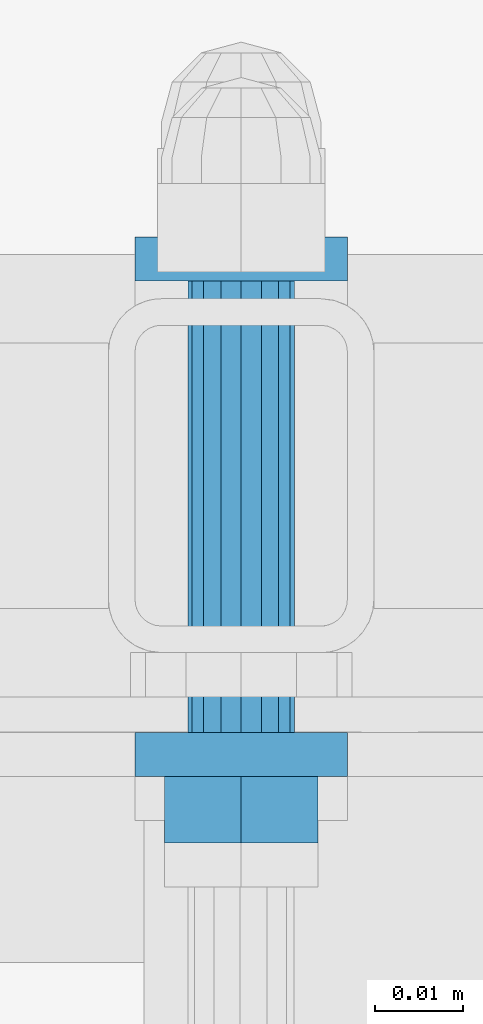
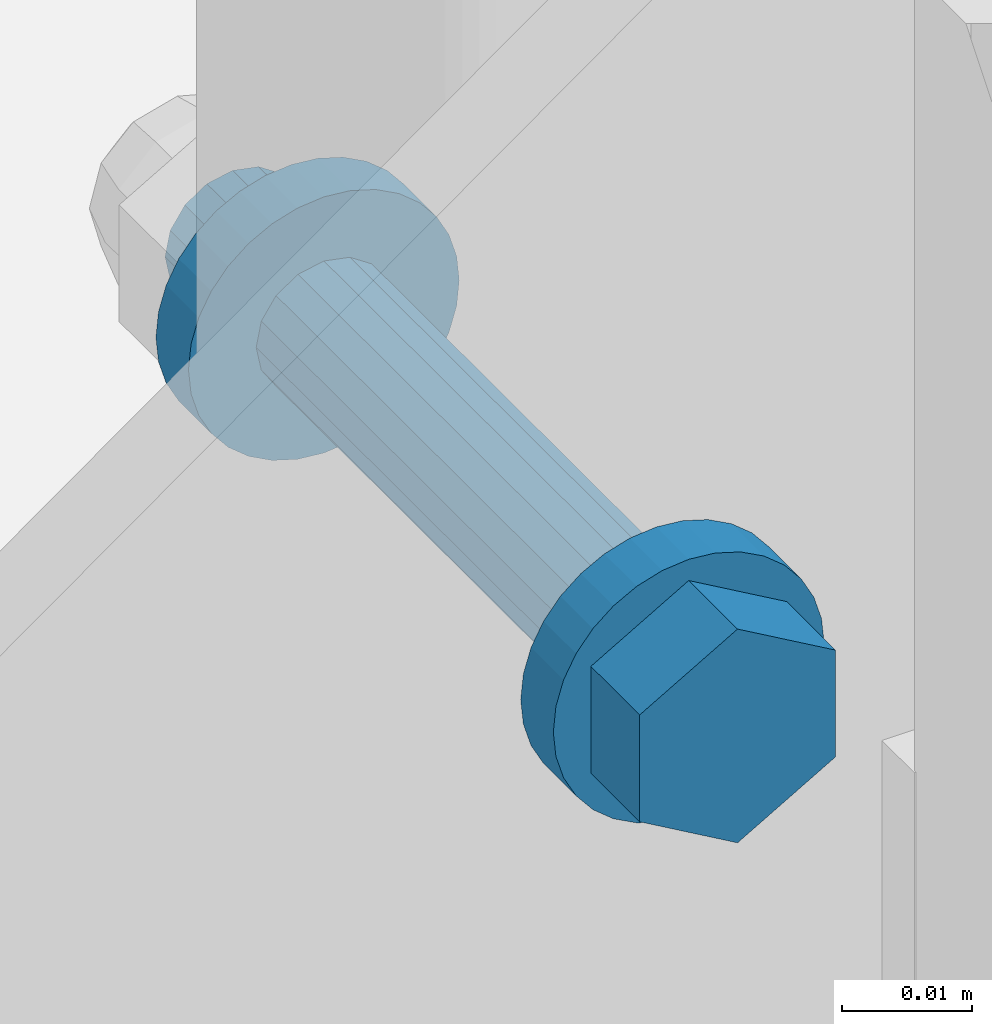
# One storey, part 78 of 116: 1 mechanical fastener.
"""IFC2X3 building model written with IfcOpenShell, lengths in millimetres."""

from ifc_helpers import new_model, entity, si_unit, converted_unit, origin_with_axes, place, context, project, spatial, faceted_brep, element, save


model = new_model("IFC2X3")

# Units and contexts
model_context = context("Model", 3, precision=1e-09, world=origin_with_axes())
ifc_project = project(units=[si_unit("LENGTHUNIT", "METRE", prefix="MILLI"), si_unit("AREAUNIT", "SQUARE_METRE"), si_unit("VOLUMEUNIT", "CUBIC_METRE"), converted_unit("PLANEANGLEUNIT", "DEGREE", entity("IfcPlaneAngleMeasure", 0.01745329), si_unit("PLANEANGLEUNIT", "RADIAN"), dimensions=[0, 0, 0, 0, 0, 0, 0])], contexts=[model_context])

# Site, building, storey
site_placement = place(None, origin_with_axes())
site = spatial("IfcSite", under=ifc_project, at=site_placement, Name="Site", CompositionType="ELEMENT")
building_placement = place(site_placement, origin_with_axes())
building = spatial("IfcBuilding", under=site, at=building_placement, Name="Struktur 1", CompositionType="ELEMENT")
storey_placement = place(building_placement, origin_with_axes())
storey = spatial("IfcBuildingStorey", under=building, at=storey_placement, Name="Default Storey", CompositionType="ELEMENT", Elevation=0.0)

# Mechanical fastener
mechanical_fastener_placement = place(None, origin_with_axes())
element("IfcMechanicalFastener", 1, at=mechanical_fastener_placement, inside=storey, ObjectType="-", NominalDiameter=12.0, NominalLength=70.0, context=model_context, shape_type="Brep", body=[
    faceted_brep([(59725.049134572, 10423.858883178, -923.0), (59725.049134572, 10426.358883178, -923.0), (59725.279711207, 10426.358883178, -925.341083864), (59725.279711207, 10423.858883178, -925.341083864), (59725.962580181, 10426.358883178, -927.592201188), (59725.962580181, 10423.858883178, -927.592201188), (59727.071499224, 10426.358883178, -929.666842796), (59727.071499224, 10423.858883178, -929.666842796), (59728.563853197, 10426.358883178, -931.485281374), (59728.563853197, 10423.858883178, -931.485281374), (59730.382291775, 10426.358883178, -932.977635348), (59730.382291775, 10423.858883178, -932.977635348), (59732.456933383, 10426.358883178, -934.08655439), (59732.456933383, 10423.858883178, -934.08655439), (59734.708050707, 10426.358883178, -934.769423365), (59734.708050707, 10423.858883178, -934.769423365), (59737.049134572, 10426.358883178, -935.0), (59737.049134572, 10423.858883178, -935.0), (59739.390218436, 10426.358883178, -934.769423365), (59739.390218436, 10423.858883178, -934.769423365), (59741.64133576, 10426.358883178, -934.08655439), (59741.64133576, 10423.858883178, -934.08655439), (59743.715977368, 10426.358883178, -932.977635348), (59743.715977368, 10423.858883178, -932.977635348), (59745.534415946, 10426.358883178, -931.485281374), (59745.534415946, 10423.858883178, -931.485281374), (59747.026769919, 10426.358883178, -929.666842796), (59747.026769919, 10423.858883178, -929.666842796), (59748.135688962, 10426.358883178, -927.592201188), (59748.135688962, 10423.858883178, -927.592201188), (59748.818557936, 10426.358883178, -925.341083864), (59748.818557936, 10423.858883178, -925.341083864), (59749.049134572, 10426.358883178, -923.0), (59749.049134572, 10423.858883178, -923.0), (59748.818557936, 10426.358883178, -920.658916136), (59748.818557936, 10423.858883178, -920.658916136), (59748.135688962, 10426.358883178, -918.407798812), (59748.135688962, 10423.858883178, -918.407798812), (59747.026769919, 10426.358883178, -916.333157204), (59747.026769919, 10423.858883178, -916.333157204), (59745.534415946, 10426.358883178, -914.514718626), (59745.534415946, 10423.858883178, -914.514718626), (59743.715977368, 10426.358883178, -913.022364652), (59743.715977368, 10423.858883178, -913.022364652), (59741.64133576, 10426.358883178, -911.91344561), (59741.64133576, 10423.858883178, -911.91344561), (59739.390218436, 10426.358883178, -911.230576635), (59739.390218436, 10423.858883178, -911.230576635), (59737.049134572, 10426.358883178, -911.0), (59737.049134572, 10423.858883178, -911.0), (59734.708050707, 10426.358883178, -911.230576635), (59734.708050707, 10423.858883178, -911.230576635), (59732.456933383, 10426.358883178, -911.91344561), (59732.456933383, 10423.858883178, -911.91344561), (59730.382291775, 10426.358883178, -913.022364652), (59730.382291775, 10423.858883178, -913.022364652), (59728.563853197, 10426.358883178, -914.514718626), (59728.563853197, 10423.858883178, -914.514718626), (59727.071499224, 10426.358883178, -916.333157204), (59727.071499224, 10423.858883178, -916.333157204), (59725.962580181, 10426.358883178, -918.407798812), (59725.962580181, 10423.858883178, -918.407798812), (59725.279711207, 10426.358883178, -920.658916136), (59725.279711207, 10423.858883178, -920.658916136)], [[[0, 1, 2, 3]], [[3, 2, 4, 5]], [[5, 4, 6, 7]], [[7, 6, 8, 9]], [[9, 8, 10, 11]], [[11, 10, 12, 13]], [[13, 12, 14, 15]], [[15, 14, 16, 17]], [[17, 16, 18, 19]], [[19, 18, 20, 21]], [[21, 20, 22, 23]], [[23, 22, 24, 25]], [[25, 24, 26, 27]], [[27, 26, 28, 29]], [[29, 28, 30, 31]], [[31, 30, 32, 33]], [[33, 32, 34, 35]], [[35, 34, 36, 37]], [[37, 36, 38, 39]], [[39, 38, 40, 41]], [[41, 40, 42, 43]], [[43, 42, 44, 45]], [[45, 44, 46, 47]], [[47, 46, 48, 49]], [[49, 48, 50, 51]], [[51, 50, 52, 53]], [[53, 52, 54, 55]], [[55, 54, 56, 57]], [[57, 56, 58, 59]], [[59, 58, 60, 61]], [[61, 60, 62, 63]], [[63, 62, 1, 0]], [[0, 3, 5, 7, 9, 11, 13, 15, 17, 19, 21, 23, 25, 27, 29, 31, 33, 35, 37, 39, 41, 43, 45, 47, 49, 51, 53, 55, 57, 59, 61, 63]], [[1, 62, 60, 58, 56, 54, 52, 50, 48, 46, 44, 42, 40, 38, 36, 34, 32, 30, 28, 26, 24, 22, 20, 18, 16, 14, 12, 10, 8, 6, 4, 2]]]),
    faceted_brep([(59725.049134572, 10421.358883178, -923.0), (59725.049134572, 10423.858883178, -923.0), (59725.279711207, 10423.858883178, -925.341083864), (59725.279711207, 10421.358883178, -925.341083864), (59725.962580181, 10423.858883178, -927.592201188), (59725.962580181, 10421.358883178, -927.592201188), (59727.071499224, 10423.858883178, -929.666842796), (59727.071499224, 10421.358883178, -929.666842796), (59728.563853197, 10423.858883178, -931.485281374), (59728.563853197, 10421.358883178, -931.485281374), (59730.382291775, 10423.858883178, -932.977635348), (59730.382291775, 10421.358883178, -932.977635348), (59732.456933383, 10423.858883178, -934.08655439), (59732.456933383, 10421.358883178, -934.08655439), (59734.708050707, 10423.858883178, -934.769423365), (59734.708050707, 10421.358883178, -934.769423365), (59737.049134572, 10423.858883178, -935.0), (59737.049134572, 10421.358883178, -935.0), (59739.390218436, 10423.858883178, -934.769423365), (59739.390218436, 10421.358883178, -934.769423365), (59741.64133576, 10423.858883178, -934.08655439), (59741.64133576, 10421.358883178, -934.08655439), (59743.715977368, 10423.858883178, -932.977635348), (59743.715977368, 10421.358883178, -932.977635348), (59745.534415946, 10423.858883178, -931.485281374), (59745.534415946, 10421.358883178, -931.485281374), (59747.026769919, 10423.858883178, -929.666842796), (59747.026769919, 10421.358883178, -929.666842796), (59748.135688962, 10423.858883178, -927.592201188), (59748.135688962, 10421.358883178, -927.592201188), (59748.818557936, 10423.858883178, -925.341083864), (59748.818557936, 10421.358883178, -925.341083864), (59749.049134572, 10423.858883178, -923.0), (59749.049134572, 10421.358883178, -923.0), (59748.818557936, 10423.858883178, -920.658916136), (59748.818557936, 10421.358883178, -920.658916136), (59748.135688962, 10423.858883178, -918.407798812), (59748.135688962, 10421.358883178, -918.407798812), (59747.026769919, 10423.858883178, -916.333157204), (59747.026769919, 10421.358883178, -916.333157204), (59745.534415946, 10423.858883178, -914.514718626), (59745.534415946, 10421.358883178, -914.514718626), (59743.715977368, 10423.858883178, -913.022364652), (59743.715977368, 10421.358883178, -913.022364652), (59741.64133576, 10423.858883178, -911.91344561), (59741.64133576, 10421.358883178, -911.91344561), (59739.390218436, 10423.858883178, -911.230576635), (59739.390218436, 10421.358883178, -911.230576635), (59737.049134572, 10423.858883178, -911.0), (59737.049134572, 10421.358883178, -911.0), (59734.708050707, 10423.858883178, -911.230576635), (59734.708050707, 10421.358883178, -911.230576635), (59732.456933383, 10423.858883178, -911.91344561), (59732.456933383, 10421.358883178, -911.91344561), (59730.382291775, 10423.858883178, -913.022364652), (59730.382291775, 10421.358883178, -913.022364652), (59728.563853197, 10423.858883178, -914.514718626), (59728.563853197, 10421.358883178, -914.514718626), (59727.071499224, 10423.858883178, -916.333157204), (59727.071499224, 10421.358883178, -916.333157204), (59725.962580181, 10423.858883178, -918.407798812), (59725.962580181, 10421.358883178, -918.407798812), (59725.279711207, 10423.858883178, -920.658916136), (59725.279711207, 10421.358883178, -920.658916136)], [[[0, 1, 2, 3]], [[3, 2, 4, 5]], [[5, 4, 6, 7]], [[7, 6, 8, 9]], [[9, 8, 10, 11]], [[11, 10, 12, 13]], [[13, 12, 14, 15]], [[15, 14, 16, 17]], [[17, 16, 18, 19]], [[19, 18, 20, 21]], [[21, 20, 22, 23]], [[23, 22, 24, 25]], [[25, 24, 26, 27]], [[27, 26, 28, 29]], [[29, 28, 30, 31]], [[31, 30, 32, 33]], [[33, 32, 34, 35]], [[35, 34, 36, 37]], [[37, 36, 38, 39]], [[39, 38, 40, 41]], [[41, 40, 42, 43]], [[43, 42, 44, 45]], [[45, 44, 46, 47]], [[47, 46, 48, 49]], [[49, 48, 50, 51]], [[51, 50, 52, 53]], [[53, 52, 54, 55]], [[55, 54, 56, 57]], [[57, 56, 58, 59]], [[59, 58, 60, 61]], [[61, 60, 62, 63]], [[63, 62, 1, 0]], [[0, 3, 5, 7, 9, 11, 13, 15, 17, 19, 21, 23, 25, 27, 29, 31, 33, 35, 37, 39, 41, 43, 45, 47, 49, 51, 53, 55, 57, 59, 61, 63]], [[1, 62, 60, 58, 56, 54, 52, 50, 48, 46, 44, 42, 40, 38, 36, 34, 32, 30, 28, 26, 24, 22, 20, 18, 16, 14, 12, 10, 8, 6, 4, 2]]]),
    faceted_brep([(59745.722378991, 10421.358883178, -928.0075), (59745.722378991, 10413.858883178, -928.0075), (59737.049134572, 10413.858883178, -933.015), (59737.049134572, 10421.358883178, -933.015), (59728.375890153, 10413.858883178, -928.0075), (59728.375890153, 10421.358883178, -928.0075), (59728.375890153, 10413.858883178, -917.9925), (59728.375890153, 10421.358883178, -917.9925), (59737.049134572, 10413.858883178, -912.985), (59737.049134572, 10421.358883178, -912.985), (59745.722378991, 10413.858883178, -917.9925), (59745.722378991, 10421.358883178, -917.9925)], [[[0, 1, 2, 3]], [[3, 2, 4, 5]], [[5, 4, 6, 7]], [[7, 6, 8, 9]], [[9, 8, 10, 11]], [[11, 10, 1, 0]], [[4, 2, 1, 10, 8, 6]], [[0, 3, 5, 7, 9, 11]]]),
    faceted_brep([(59731.049134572, 10426.358883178, -923.0), (59731.049134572, 10477.357883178, -923.0), (59731.505857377, 10477.357883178, -925.296100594), (59731.505857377, 10426.358883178, -925.296100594), (59732.806493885, 10477.357883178, -927.242640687), (59732.806493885, 10426.358883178, -927.242640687), (59734.753033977, 10477.357883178, -928.543277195), (59734.753033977, 10426.358883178, -928.543277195), (59737.049134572, 10477.357883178, -929.0), (59737.049134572, 10426.358883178, -929.0), (59739.345235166, 10477.357883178, -928.543277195), (59739.345235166, 10426.358883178, -928.543277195), (59741.291775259, 10477.357883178, -927.242640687), (59741.291775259, 10426.358883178, -927.242640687), (59742.592411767, 10477.357883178, -925.296100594), (59742.592411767, 10426.358883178, -925.296100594), (59743.049134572, 10477.357883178, -923.0), (59743.049134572, 10426.358883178, -923.0), (59742.592411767, 10477.357883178, -920.703899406), (59742.592411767, 10426.358883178, -920.703899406), (59741.291775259, 10477.357883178, -918.757359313), (59741.291775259, 10426.358883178, -918.757359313), (59739.345235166, 10477.357883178, -917.456722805), (59739.345235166, 10426.358883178, -917.456722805), (59737.049134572, 10477.357883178, -917.0), (59737.049134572, 10426.358883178, -917.0), (59734.753033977, 10477.357883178, -917.456722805), (59734.753033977, 10426.358883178, -917.456722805), (59732.806493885, 10477.357883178, -918.757359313), (59732.806493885, 10426.358883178, -918.757359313), (59731.505857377, 10477.357883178, -920.703899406), (59731.505857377, 10426.358883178, -920.703899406)], [[[0, 1, 2, 3]], [[3, 2, 4, 5]], [[5, 4, 6, 7]], [[7, 6, 8, 9]], [[9, 8, 10, 11]], [[11, 10, 12, 13]], [[13, 12, 14, 15]], [[15, 14, 16, 17]], [[17, 16, 18, 19]], [[19, 18, 20, 21]], [[21, 20, 22, 23]], [[23, 22, 24, 25]], [[25, 24, 26, 27]], [[27, 26, 28, 29]], [[29, 28, 30, 31]], [[31, 30, 1, 0]], [[0, 3, 5, 7, 9, 11, 13, 15, 17, 19, 21, 23, 25, 27, 29, 31]], [[1, 30, 28, 26, 24, 22, 20, 18, 16, 14, 12, 10, 8, 6, 4, 2]]]),
    faceted_brep([(59725.049134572, 10477.357883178, -923.0), (59725.049134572, 10479.857883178, -923.0), (59725.279711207, 10479.857883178, -925.341083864), (59725.279711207, 10477.357883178, -925.341083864), (59725.962580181, 10479.857883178, -927.592201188), (59725.962580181, 10477.357883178, -927.592201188), (59727.071499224, 10479.857883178, -929.666842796), (59727.071499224, 10477.357883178, -929.666842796), (59728.563853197, 10479.857883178, -931.485281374), (59728.563853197, 10477.357883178, -931.485281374), (59730.382291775, 10479.857883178, -932.977635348), (59730.382291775, 10477.357883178, -932.977635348), (59732.456933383, 10479.857883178, -934.08655439), (59732.456933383, 10477.357883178, -934.08655439), (59734.708050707, 10479.857883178, -934.769423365), (59734.708050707, 10477.357883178, -934.769423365), (59737.049134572, 10479.857883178, -935.0), (59737.049134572, 10477.357883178, -935.0), (59739.390218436, 10479.857883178, -934.769423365), (59739.390218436, 10477.357883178, -934.769423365), (59741.64133576, 10479.857883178, -934.08655439), (59741.64133576, 10477.357883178, -934.08655439), (59743.715977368, 10479.857883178, -932.977635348), (59743.715977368, 10477.357883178, -932.977635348), (59745.534415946, 10479.857883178, -931.485281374), (59745.534415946, 10477.357883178, -931.485281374), (59747.026769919, 10479.857883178, -929.666842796), (59747.026769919, 10477.357883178, -929.666842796), (59748.135688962, 10479.857883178, -927.592201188), (59748.135688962, 10477.357883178, -927.592201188), (59748.818557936, 10479.857883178, -925.341083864), (59748.818557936, 10477.357883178, -925.341083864), (59749.049134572, 10479.857883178, -923.0), (59749.049134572, 10477.357883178, -923.0), (59748.818557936, 10479.857883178, -920.658916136), (59748.818557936, 10477.357883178, -920.658916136), (59748.135688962, 10479.857883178, -918.407798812), (59748.135688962, 10477.357883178, -918.407798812), (59747.026769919, 10479.857883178, -916.333157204), (59747.026769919, 10477.357883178, -916.333157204), (59745.534415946, 10479.857883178, -914.514718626), (59745.534415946, 10477.357883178, -914.514718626), (59743.715977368, 10479.857883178, -913.022364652), (59743.715977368, 10477.357883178, -913.022364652), (59741.64133576, 10479.857883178, -911.91344561), (59741.64133576, 10477.357883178, -911.91344561), (59739.390218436, 10479.857883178, -911.230576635), (59739.390218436, 10477.357883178, -911.230576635), (59737.049134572, 10479.857883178, -911.0), (59737.049134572, 10477.357883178, -911.0), (59734.708050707, 10479.857883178, -911.230576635), (59734.708050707, 10477.357883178, -911.230576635), (59732.456933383, 10479.857883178, -911.91344561), (59732.456933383, 10477.357883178, -911.91344561), (59730.382291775, 10479.857883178, -913.022364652), (59730.382291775, 10477.357883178, -913.022364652), (59728.563853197, 10479.857883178, -914.514718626), (59728.563853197, 10477.357883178, -914.514718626), (59727.071499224, 10479.857883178, -916.333157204), (59727.071499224, 10477.357883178, -916.333157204), (59725.962580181, 10479.857883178, -918.407798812), (59725.962580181, 10477.357883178, -918.407798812), (59725.279711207, 10479.857883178, -920.658916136), (59725.279711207, 10477.357883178, -920.658916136)], [[[0, 1, 2, 3]], [[3, 2, 4, 5]], [[5, 4, 6, 7]], [[7, 6, 8, 9]], [[9, 8, 10, 11]], [[11, 10, 12, 13]], [[13, 12, 14, 15]], [[15, 14, 16, 17]], [[17, 16, 18, 19]], [[19, 18, 20, 21]], [[21, 20, 22, 23]], [[23, 22, 24, 25]], [[25, 24, 26, 27]], [[27, 26, 28, 29]], [[29, 28, 30, 31]], [[31, 30, 32, 33]], [[33, 32, 34, 35]], [[35, 34, 36, 37]], [[37, 36, 38, 39]], [[39, 38, 40, 41]], [[41, 40, 42, 43]], [[43, 42, 44, 45]], [[45, 44, 46, 47]], [[47, 46, 48, 49]], [[49, 48, 50, 51]], [[51, 50, 52, 53]], [[53, 52, 54, 55]], [[55, 54, 56, 57]], [[57, 56, 58, 59]], [[59, 58, 60, 61]], [[61, 60, 62, 63]], [[63, 62, 1, 0]], [[0, 3, 5, 7, 9, 11, 13, 15, 17, 19, 21, 23, 25, 27, 29, 31, 33, 35, 37, 39, 41, 43, 45, 47, 49, 51, 53, 55, 57, 59, 61, 63]], [[1, 62, 60, 58, 56, 54, 52, 50, 48, 46, 44, 42, 40, 38, 36, 34, 32, 30, 28, 26, 24, 22, 20, 18, 16, 14, 12, 10, 8, 6, 4, 2]]]),
    faceted_brep([(59725.049134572, 10479.857883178, -923.0), (59725.049134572, 10482.357883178, -923.0), (59725.279711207, 10482.357883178, -925.341083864), (59725.279711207, 10479.857883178, -925.341083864), (59725.962580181, 10482.357883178, -927.592201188), (59725.962580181, 10479.857883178, -927.592201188), (59727.071499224, 10482.357883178, -929.666842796), (59727.071499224, 10479.857883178, -929.666842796), (59728.563853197, 10482.357883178, -931.485281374), (59728.563853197, 10479.857883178, -931.485281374), (59730.382291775, 10482.357883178, -932.977635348), (59730.382291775, 10479.857883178, -932.977635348), (59732.456933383, 10482.357883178, -934.08655439), (59732.456933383, 10479.857883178, -934.08655439), (59734.708050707, 10482.357883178, -934.769423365), (59734.708050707, 10479.857883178, -934.769423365), (59737.049134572, 10482.357883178, -935.0), (59737.049134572, 10479.857883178, -935.0), (59739.390218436, 10482.357883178, -934.769423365), (59739.390218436, 10479.857883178, -934.769423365), (59741.64133576, 10482.357883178, -934.08655439), (59741.64133576, 10479.857883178, -934.08655439), (59743.715977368, 10482.357883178, -932.977635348), (59743.715977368, 10479.857883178, -932.977635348), (59745.534415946, 10482.357883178, -931.485281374), (59745.534415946, 10479.857883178, -931.485281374), (59747.026769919, 10482.357883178, -929.666842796), (59747.026769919, 10479.857883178, -929.666842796), (59748.135688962, 10482.357883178, -927.592201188), (59748.135688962, 10479.857883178, -927.592201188), (59748.818557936, 10482.357883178, -925.341083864), (59748.818557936, 10479.857883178, -925.341083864), (59749.049134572, 10482.357883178, -923.0), (59749.049134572, 10479.857883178, -923.0), (59748.818557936, 10482.357883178, -920.658916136), (59748.818557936, 10479.857883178, -920.658916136), (59748.135688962, 10482.357883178, -918.407798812), (59748.135688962, 10479.857883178, -918.407798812), (59747.026769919, 10482.357883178, -916.333157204), (59747.026769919, 10479.857883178, -916.333157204), (59745.534415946, 10482.357883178, -914.514718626), (59745.534415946, 10479.857883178, -914.514718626), (59743.715977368, 10482.357883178, -913.022364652), (59743.715977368, 10479.857883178, -913.022364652), (59741.64133576, 10482.357883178, -911.91344561), (59741.64133576, 10479.857883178, -911.91344561), (59739.390218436, 10482.357883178, -911.230576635), (59739.390218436, 10479.857883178, -911.230576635), (59737.049134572, 10482.357883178, -911.0), (59737.049134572, 10479.857883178, -911.0), (59734.708050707, 10482.357883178, -911.230576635), (59734.708050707, 10479.857883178, -911.230576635), (59732.456933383, 10482.357883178, -911.91344561), (59732.456933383, 10479.857883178, -911.91344561), (59730.382291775, 10482.357883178, -913.022364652), (59730.382291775, 10479.857883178, -913.022364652), (59728.563853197, 10482.357883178, -914.514718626), (59728.563853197, 10479.857883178, -914.514718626), (59727.071499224, 10482.357883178, -916.333157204), (59727.071499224, 10479.857883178, -916.333157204), (59725.962580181, 10482.357883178, -918.407798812), (59725.962580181, 10479.857883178, -918.407798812), (59725.279711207, 10482.357883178, -920.658916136), (59725.279711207, 10479.857883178, -920.658916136)], [[[0, 1, 2, 3]], [[3, 2, 4, 5]], [[5, 4, 6, 7]], [[7, 6, 8, 9]], [[9, 8, 10, 11]], [[11, 10, 12, 13]], [[13, 12, 14, 15]], [[15, 14, 16, 17]], [[17, 16, 18, 19]], [[19, 18, 20, 21]], [[21, 20, 22, 23]], [[23, 22, 24, 25]], [[25, 24, 26, 27]], [[27, 26, 28, 29]], [[29, 28, 30, 31]], [[31, 30, 32, 33]], [[33, 32, 34, 35]], [[35, 34, 36, 37]], [[37, 36, 38, 39]], [[39, 38, 40, 41]], [[41, 40, 42, 43]], [[43, 42, 44, 45]], [[45, 44, 46, 47]], [[47, 46, 48, 49]], [[49, 48, 50, 51]], [[51, 50, 52, 53]], [[53, 52, 54, 55]], [[55, 54, 56, 57]], [[57, 56, 58, 59]], [[59, 58, 60, 61]], [[61, 60, 62, 63]], [[63, 62, 1, 0]], [[0, 3, 5, 7, 9, 11, 13, 15, 17, 19, 21, 23, 25, 27, 29, 31, 33, 35, 37, 39, 41, 43, 45, 47, 49, 51, 53, 55, 57, 59, 61, 63]], [[1, 62, 60, 58, 56, 54, 52, 50, 48, 46, 44, 42, 40, 38, 36, 34, 32, 30, 28, 26, 24, 22, 20, 18, 16, 14, 12, 10, 8, 6, 4, 2]]]),
    faceted_brep([(59731.049134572, 10482.357883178, -923.0), (59731.049134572, 10491.358883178, -923.0), (59731.505857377, 10491.358883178, -925.296100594), (59731.505857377, 10482.357883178, -925.296100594), (59732.806493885, 10491.358883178, -927.242640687), (59732.806493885, 10482.357883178, -927.242640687), (59734.753033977, 10491.358883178, -928.543277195), (59734.753033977, 10482.357883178, -928.543277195), (59737.049134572, 10491.358883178, -929.0), (59737.049134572, 10482.357883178, -929.0), (59739.345235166, 10491.358883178, -928.543277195), (59739.345235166, 10482.357883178, -928.543277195), (59741.291775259, 10491.358883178, -927.242640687), (59741.291775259, 10482.357883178, -927.242640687), (59742.592411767, 10491.358883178, -925.296100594), (59742.592411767, 10482.357883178, -925.296100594), (59743.049134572, 10491.358883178, -923.0), (59743.049134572, 10482.357883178, -923.0), (59742.592411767, 10491.358883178, -920.703899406), (59742.592411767, 10482.357883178, -920.703899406), (59741.291775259, 10491.358883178, -918.757359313), (59741.291775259, 10482.357883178, -918.757359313), (59739.345235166, 10491.358883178, -917.456722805), (59739.345235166, 10482.357883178, -917.456722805), (59737.049134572, 10491.358883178, -917.0), (59737.049134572, 10482.357883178, -917.0), (59734.753033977, 10491.358883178, -917.456722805), (59734.753033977, 10482.357883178, -917.456722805), (59732.806493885, 10491.358883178, -918.757359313), (59732.806493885, 10482.357883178, -918.757359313), (59731.505857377, 10491.358883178, -920.703899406), (59731.505857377, 10482.357883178, -920.703899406)], [[[0, 1, 2, 3]], [[3, 2, 4, 5]], [[5, 4, 6, 7]], [[7, 6, 8, 9]], [[9, 8, 10, 11]], [[11, 10, 12, 13]], [[13, 12, 14, 15]], [[15, 14, 16, 17]], [[17, 16, 18, 19]], [[19, 18, 20, 21]], [[21, 20, 22, 23]], [[23, 22, 24, 25]], [[25, 24, 26, 27]], [[27, 26, 28, 29]], [[29, 28, 30, 31]], [[31, 30, 1, 0]], [[0, 3, 5, 7, 9, 11, 13, 15, 17, 19, 21, 23, 25, 27, 29, 31]], [[1, 30, 28, 26, 24, 22, 20, 18, 16, 14, 12, 10, 8, 6, 4, 2]]]),
])

save(model, "model.ifc")
